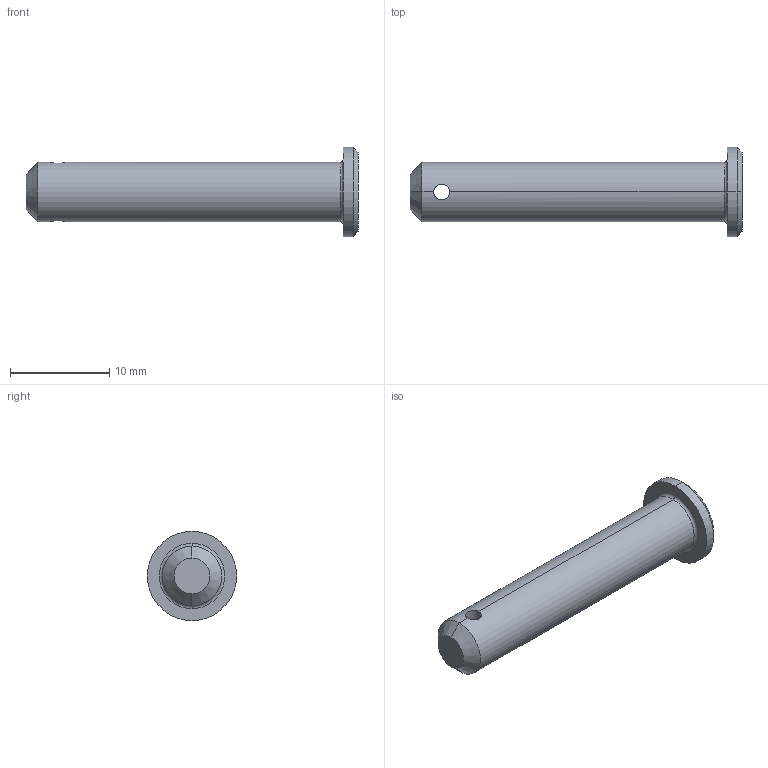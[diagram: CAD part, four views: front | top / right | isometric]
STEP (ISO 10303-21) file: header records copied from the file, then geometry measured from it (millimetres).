
FILE_DESCRIPTION (( 'STEP AP203' ), '1' );
FILE_NAME ('Wiberger-sms2360_6x32.step', '2012-10-09T08:58:25', ( 'Magnus' ), ( 'Wiberger' ), 'SwSTEP 2.0', 'SolidWorks 2011', '' );
FILE_SCHEMA (( 'CONFIG_CONTROL_DESIGN' ));
Length unit declared in the file: millimetre
Products named in the file (1): Wiberger-sms2360_6x32
Bounding box: 33.5 x 9 x 9 mm (x, y, z)
Volume: 973.5 mm3; surface area: 772.3 mm2
Topology: 1 solids, 1 shells, 15 faces, 32 edges, 18 vertices
Faces by surface type: cylinder 6, cone 4, plane 3, torus 2
Entity records: 539 total; most frequent: CARTESIAN_POINT 130, DIRECTION 76, ORIENTED_EDGE 64, EDGE_CURVE 32, AXIS2_PLACEMENT_3D 32, VERTEX_POINT 18, EDGE_LOOP 16, CIRCLE 16
